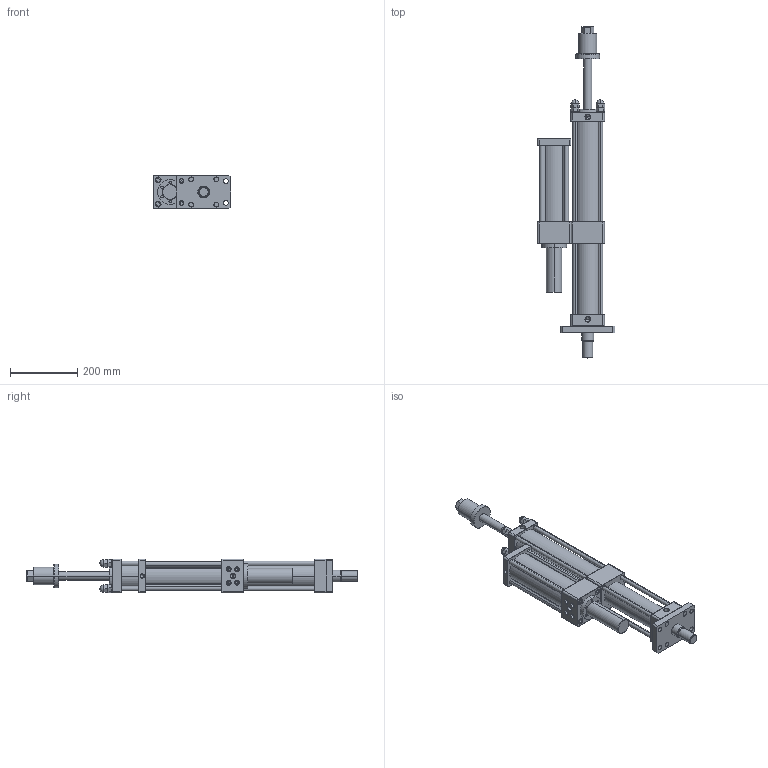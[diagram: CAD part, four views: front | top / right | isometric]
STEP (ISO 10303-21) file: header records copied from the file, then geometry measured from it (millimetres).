
FILE_DESCRIPTION (( 'STEP AP203' ), '1' );
FILE_NAME ('MPTD-63-150-15-3T.STEP', '2016-03-17T10:34:53', ( 'WIN' ), ( '' ), 'SwSTEP 2.0', 'SolidWorks 2014', '' );
FILE_SCHEMA (( 'CONFIG_CONTROL_DESIGN' ));
Length unit declared in the file: millimetre
Products named in the file (1): MPTD-63-150-15-3T
Bounding box: 230 x 988 x 100 mm (x, y, z)
Volume: 4043280.2 mm3; surface area: 873032.9 mm2
Topology: 1 solids, 8 shells, 725 faces, 1699 edges, 1051 vertices
Faces by surface type: plane 394, cylinder 219, cone 56, torus 32, bspline 24
Entity records: 21592 total; most frequent: CARTESIAN_POINT 4886, DIRECTION 3579, ORIENTED_EDGE 3346, EDGE_CURVE 1673, AXIS2_PLACEMENT_3D 1312, VERTEX_POINT 1051, VECTOR 955, LINE 955
